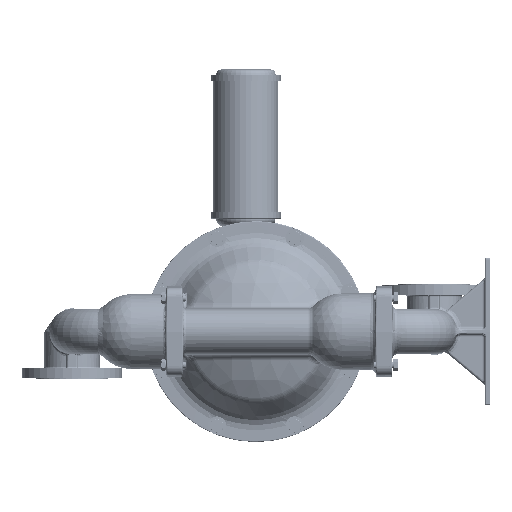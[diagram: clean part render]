
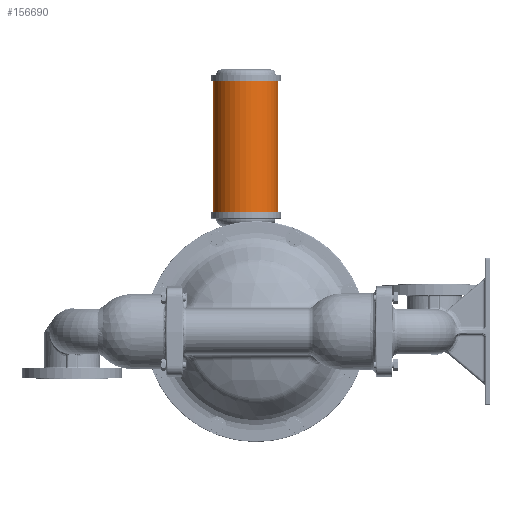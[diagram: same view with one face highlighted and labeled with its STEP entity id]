
A CAD part, left-side view. The second image highlights one B-rep face of the part: STEP entity #156690.
In plain terms, the highlighted cylindrical face has radius 61.722 mm (diameter 123.444 mm), a partial arc.
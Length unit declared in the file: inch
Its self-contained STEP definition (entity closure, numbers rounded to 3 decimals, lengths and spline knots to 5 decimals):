
#2547 = EDGE_LOOP ( 'NONE', ( #537084, #644723, #443214, #416354 ) ) ;
#58654 = CIRCLE ( 'NONE', #490342, 2.43 ) ;
#69880 = CARTESIAN_POINT ( 'NONE',  ( 0., 0.75, 18.745 ) ) ;
#70458 = EDGE_CURVE ( 'NONE', #692699, #297554, #675151, .T. ) ;
#78067 = FACE_OUTER_BOUND ( 'NONE', #2547, .T. ) ;
#106582 = CARTESIAN_POINT ( 'NONE',  ( 0., 3.18, 8.965 ) ) ;
#136695 = CARTESIAN_POINT ( 'NONE',  ( 0., -1.68, 18.745 ) ) ;
#156690 = ADVANCED_FACE ( 'NONE', ( #78067 ), #398283, .T. ) ;
#186887 = EDGE_CURVE ( 'NONE', #613395, #521512, #303122, .T. ) ;
#188033 = AXIS2_PLACEMENT_3D ( 'NONE', #295036, #519116, #512063 ) ;
#210691 = DIRECTION ( 'NONE',  ( 0., 1., 0. ) ) ;
#253524 = CARTESIAN_POINT ( 'NONE',  ( 0., 0.75, 8.965 ) ) ;
#264036 = DIRECTION ( 'NONE',  ( 0., 0., 1. ) ) ;
#295036 = CARTESIAN_POINT ( 'NONE',  ( 0., 0.75, 20.2325 ) ) ;
#296705 = CARTESIAN_POINT ( 'NONE',  ( 0., 3.18, 18.745 ) ) ;
#297554 = VERTEX_POINT ( 'NONE', #136695 ) ;
#303122 = LINE ( 'NONE', #573536, #568834 ) ;
#331169 = CARTESIAN_POINT ( 'NONE',  ( 0., -1.68, 8.965 ) ) ;
#366961 = DIRECTION ( 'NONE',  ( 0., 0., 1. ) ) ;
#379101 = VECTOR ( 'NONE', #381046, 39.37008 ) ;
#381046 = DIRECTION ( 'NONE',  ( 0., 0., 1. ) ) ;
#387797 = EDGE_CURVE ( 'NONE', #521512, #297554, #58654, .T. ) ;
#398241 = CIRCLE ( 'NONE', #580098, 2.43 ) ;
#398283 = CYLINDRICAL_SURFACE ( 'NONE', #188033, 2.43 ) ;
#416354 = ORIENTED_EDGE ( 'NONE', *, *, #186887, .F. ) ;
#443214 = ORIENTED_EDGE ( 'NONE', *, *, #387797, .F. ) ;
#490342 = AXIS2_PLACEMENT_3D ( 'NONE', #69880, #667588, #503894 ) ;
#503894 = DIRECTION ( 'NONE',  ( 0., 1., 0. ) ) ;
#512063 = DIRECTION ( 'NONE',  ( 0., -1., 0. ) ) ;
#519116 = DIRECTION ( 'NONE',  ( 0., 0., -1. ) ) ;
#521512 = VERTEX_POINT ( 'NONE', #296705 ) ;
#537084 = ORIENTED_EDGE ( 'NONE', *, *, #613007, .T. ) ;
#568834 = VECTOR ( 'NONE', #366961, 39.37008 ) ;
#573536 = CARTESIAN_POINT ( 'NONE',  ( 0., 3.18, 8.965 ) ) ;
#580098 = AXIS2_PLACEMENT_3D ( 'NONE', #253524, #264036, #210691 ) ;
#613007 = EDGE_CURVE ( 'NONE', #613395, #692699, #398241, .T. ) ;
#613395 = VERTEX_POINT ( 'NONE', #106582 ) ;
#644723 = ORIENTED_EDGE ( 'NONE', *, *, #70458, .T. ) ;
#667588 = DIRECTION ( 'NONE',  ( 0., 0., 1. ) ) ;
#675151 = LINE ( 'NONE', #331169, #379101 ) ;
#683992 = CARTESIAN_POINT ( 'NONE',  ( 0., -1.68, 8.965 ) ) ;
#692699 = VERTEX_POINT ( 'NONE', #683992 ) ;
